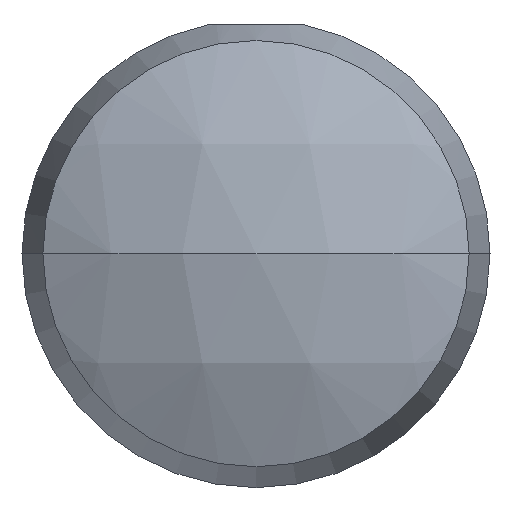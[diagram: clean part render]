
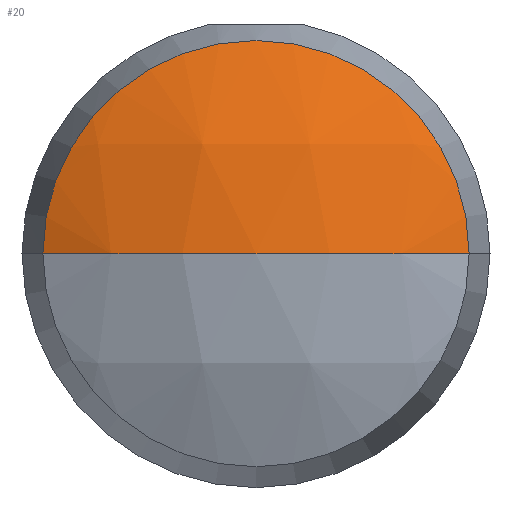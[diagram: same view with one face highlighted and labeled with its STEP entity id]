
A CAD part, left-side view. The second image highlights one B-rep face of the part: STEP entity #20.
In plain terms, the highlighted spherical face has radius 6 mm.
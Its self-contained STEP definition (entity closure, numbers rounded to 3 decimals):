
#6 = CIRCLE ( 'NONE', #218, 6. ) ;
#12 = CIRCLE ( 'NONE', #216, 6. ) ;
#18 = VERTEX_POINT ( 'NONE', #316 ) ;
#20 = ADVANCED_FACE ( 'NONE', ( #304 ), #429, .T. ) ;
#52 = DIRECTION ( 'NONE',  ( 0., 0., -1. ) ) ;
#60 = CARTESIAN_POINT ( 'NONE',  ( 0.658, 0., 0. ) ) ;
#65 = CARTESIAN_POINT ( 'NONE',  ( 0.658, 2.732, 0. ) ) ;
#76 = ORIENTED_EDGE ( 'NONE', *, *, #126, .F. ) ;
#81 = EDGE_CURVE ( 'NONE', #288, #322, #275, .T. ) ;
#97 = AXIS2_PLACEMENT_3D ( 'NONE', #200, #52, #184 ) ;
#126 = EDGE_CURVE ( 'NONE', #288, #18, #12, .T. ) ;
#142 = CARTESIAN_POINT ( 'NONE',  ( 6., 0., 0. ) ) ;
#154 = DIRECTION ( 'NONE',  ( 0., 0., -1. ) ) ;
#167 = DIRECTION ( 'NONE',  ( 0., -1., 0. ) ) ;
#184 = DIRECTION ( 'NONE',  ( 0., 1., 0. ) ) ;
#200 = CARTESIAN_POINT ( 'NONE',  ( 6., 0., 0. ) ) ;
#216 = AXIS2_PLACEMENT_3D ( 'NONE', #317, #154, #404 ) ;
#218 = AXIS2_PLACEMENT_3D ( 'NONE', #142, #395, #221 ) ;
#221 = DIRECTION ( 'NONE',  ( 1., 0., 0. ) ) ;
#275 = CIRCLE ( 'NONE', #329, 2.732 ) ;
#277 = ORIENTED_EDGE ( 'NONE', *, *, #81, .T. ) ;
#288 = VERTEX_POINT ( 'NONE', #432 ) ;
#295 = ORIENTED_EDGE ( 'NONE', *, *, #452, .T. ) ;
#304 = FACE_OUTER_BOUND ( 'NONE', #380, .T. ) ;
#310 = DIRECTION ( 'NONE',  ( -1., 0., 0. ) ) ;
#316 = CARTESIAN_POINT ( 'NONE',  ( 0., 0., 0. ) ) ;
#317 = CARTESIAN_POINT ( 'NONE',  ( 6., 0., 0. ) ) ;
#322 = VERTEX_POINT ( 'NONE', #65 ) ;
#329 = AXIS2_PLACEMENT_3D ( 'NONE', #60, #310, #167 ) ;
#380 = EDGE_LOOP ( 'NONE', ( #76, #277, #295 ) ) ;
#395 = DIRECTION ( 'NONE',  ( 0., 0., 1. ) ) ;
#404 = DIRECTION ( 'NONE',  ( 0., 1., 0. ) ) ;
#429 = SPHERICAL_SURFACE ( 'NONE', #97, 6. ) ;
#432 = CARTESIAN_POINT ( 'NONE',  ( 0.658, -2.732, 0. ) ) ;
#452 = EDGE_CURVE ( 'NONE', #322, #18, #6, .T. ) ;
